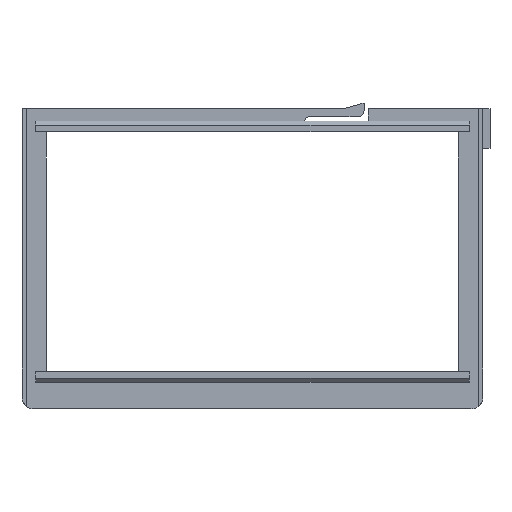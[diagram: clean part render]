
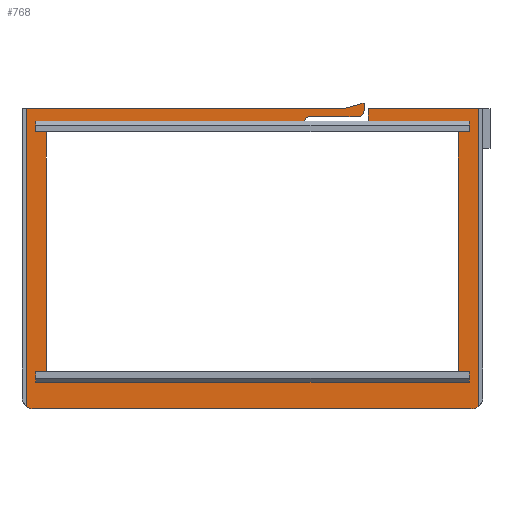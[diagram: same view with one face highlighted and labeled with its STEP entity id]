
A CAD part, top view. The second image highlights one B-rep face of the part: STEP entity #768.
In plain terms, the highlighted planar face has unit normal (0, 0, 1).
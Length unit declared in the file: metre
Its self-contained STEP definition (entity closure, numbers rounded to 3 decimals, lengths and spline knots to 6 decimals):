
#16=CIRCLE('',#823,0.003);
#17=CIRCLE('',#824,0.003);
#18=CIRCLE('',#825,0.0015);
#19=CIRCLE('',#826,0.0015);
#26=ORIENTED_EDGE('',*,*,#252,.F.);
#27=ORIENTED_EDGE('',*,*,#253,.F.);
#28=ORIENTED_EDGE('',*,*,#254,.T.);
#29=ORIENTED_EDGE('',*,*,#255,.T.);
#30=ORIENTED_EDGE('',*,*,#256,.F.);
#31=ORIENTED_EDGE('',*,*,#257,.F.);
#32=ORIENTED_EDGE('',*,*,#258,.T.);
#33=ORIENTED_EDGE('',*,*,#259,.T.);
#34=ORIENTED_EDGE('',*,*,#260,.F.);
#35=ORIENTED_EDGE('',*,*,#261,.F.);
#36=ORIENTED_EDGE('',*,*,#262,.T.);
#37=ORIENTED_EDGE('',*,*,#263,.T.);
#38=ORIENTED_EDGE('',*,*,#264,.T.);
#39=ORIENTED_EDGE('',*,*,#265,.T.);
#40=ORIENTED_EDGE('',*,*,#266,.F.);
#41=ORIENTED_EDGE('',*,*,#267,.T.);
#42=ORIENTED_EDGE('',*,*,#268,.F.);
#43=ORIENTED_EDGE('',*,*,#269,.T.);
#44=ORIENTED_EDGE('',*,*,#270,.T.);
#45=ORIENTED_EDGE('',*,*,#271,.T.);
#46=ORIENTED_EDGE('',*,*,#272,.T.);
#47=ORIENTED_EDGE('',*,*,#273,.T.);
#48=ORIENTED_EDGE('',*,*,#274,.T.);
#49=ORIENTED_EDGE('',*,*,#275,.T.);
#50=ORIENTED_EDGE('',*,*,#276,.T.);
#51=ORIENTED_EDGE('',*,*,#277,.T.);
#252=EDGE_CURVE('',#365,#366,#439,.T.);
#253=EDGE_CURVE('',#367,#365,#440,.T.);
#254=EDGE_CURVE('',#367,#368,#441,.T.);
#255=EDGE_CURVE('',#368,#369,#442,.T.);
#256=EDGE_CURVE('',#370,#369,#443,.T.);
#257=EDGE_CURVE('',#371,#370,#444,.T.);
#258=EDGE_CURVE('',#371,#372,#445,.T.);
#259=EDGE_CURVE('',#372,#373,#446,.T.);
#260=EDGE_CURVE('',#374,#373,#447,.T.);
#261=EDGE_CURVE('',#375,#374,#448,.T.);
#262=EDGE_CURVE('',#375,#376,#449,.T.);
#263=EDGE_CURVE('',#376,#366,#450,.T.);
#264=EDGE_CURVE('',#377,#378,#451,.T.);
#265=EDGE_CURVE('',#378,#379,#16,.F.);
#266=EDGE_CURVE('',#380,#379,#452,.T.);
#267=EDGE_CURVE('',#380,#381,#17,.F.);
#268=EDGE_CURVE('',#382,#381,#453,.T.);
#269=EDGE_CURVE('',#382,#383,#454,.T.);
#270=EDGE_CURVE('',#383,#384,#455,.T.);
#271=EDGE_CURVE('',#384,#385,#456,.T.);
#272=EDGE_CURVE('',#385,#386,#18,.T.);
#273=EDGE_CURVE('',#386,#387,#457,.T.);
#274=EDGE_CURVE('',#387,#388,#19,.F.);
#275=EDGE_CURVE('',#388,#389,#458,.T.);
#276=EDGE_CURVE('',#389,#390,#459,.T.);
#277=EDGE_CURVE('',#390,#377,#460,.T.);
#365=VERTEX_POINT('',#1083);
#366=VERTEX_POINT('',#1084);
#367=VERTEX_POINT('',#1086);
#368=VERTEX_POINT('',#1088);
#369=VERTEX_POINT('',#1090);
#370=VERTEX_POINT('',#1092);
#371=VERTEX_POINT('',#1094);
#372=VERTEX_POINT('',#1096);
#373=VERTEX_POINT('',#1098);
#374=VERTEX_POINT('',#1100);
#375=VERTEX_POINT('',#1102);
#376=VERTEX_POINT('',#1104);
#377=VERTEX_POINT('',#1107);
#378=VERTEX_POINT('',#1108);
#379=VERTEX_POINT('',#1110);
#380=VERTEX_POINT('',#1112);
#381=VERTEX_POINT('',#1114);
#382=VERTEX_POINT('',#1116);
#383=VERTEX_POINT('',#1118);
#384=VERTEX_POINT('',#1120);
#385=VERTEX_POINT('',#1122);
#386=VERTEX_POINT('',#1124);
#387=VERTEX_POINT('',#1126);
#388=VERTEX_POINT('',#1128);
#389=VERTEX_POINT('',#1130);
#390=VERTEX_POINT('',#1132);
#439=LINE('',#1082,#542);
#440=LINE('',#1085,#543);
#441=LINE('',#1087,#544);
#442=LINE('',#1089,#545);
#443=LINE('',#1091,#546);
#444=LINE('',#1093,#547);
#445=LINE('',#1095,#548);
#446=LINE('',#1097,#549);
#447=LINE('',#1099,#550);
#448=LINE('',#1101,#551);
#449=LINE('',#1103,#552);
#450=LINE('',#1105,#553);
#451=LINE('',#1106,#554);
#452=LINE('',#1111,#555);
#453=LINE('',#1115,#556);
#454=LINE('',#1117,#557);
#455=LINE('',#1119,#558);
#456=LINE('',#1121,#559);
#457=LINE('',#1125,#560);
#458=LINE('',#1129,#561);
#459=LINE('',#1131,#562);
#460=LINE('',#1133,#563);
#542=VECTOR('',#877,1.);
#543=VECTOR('',#878,1.);
#544=VECTOR('',#879,1.);
#545=VECTOR('',#880,1.);
#546=VECTOR('',#881,1.);
#547=VECTOR('',#882,1.);
#548=VECTOR('',#883,1.);
#549=VECTOR('',#884,1.);
#550=VECTOR('',#885,1.);
#551=VECTOR('',#886,1.);
#552=VECTOR('',#887,1.);
#553=VECTOR('',#888,1.);
#554=VECTOR('',#889,1.);
#555=VECTOR('',#892,1.);
#556=VECTOR('',#895,1.);
#557=VECTOR('',#896,1.);
#558=VECTOR('',#897,1.);
#559=VECTOR('',#898,1.);
#560=VECTOR('',#901,1.);
#561=VECTOR('',#904,1.);
#562=VECTOR('',#905,1.);
#563=VECTOR('',#906,1.);
#645=EDGE_LOOP('',(#26,#27,#28,#29,#30,#31,#32,#33,#34,#35,#36,#37));
#646=EDGE_LOOP('',(#38,#39,#40,#41,#42,#43,#44,#45,#46,#47,#48,#49,#50,#51));
#688=FACE_BOUND('',#645,.T.);
#689=FACE_BOUND('',#646,.T.);
#731=PLANE('',#822);
#768=ADVANCED_FACE('',(#688,#689),#731,.F.);
#822=AXIS2_PLACEMENT_3D('',#1081,#875,#876);
#823=AXIS2_PLACEMENT_3D('',#1109,#890,#891);
#824=AXIS2_PLACEMENT_3D('',#1113,#893,#894);
#825=AXIS2_PLACEMENT_3D('',#1123,#899,#900);
#826=AXIS2_PLACEMENT_3D('',#1127,#902,#903);
#875=DIRECTION('',(0.,0.,-1.));
#876=DIRECTION('',(1.,0.,0.));
#877=DIRECTION('',(-1.,0.,0.));
#878=DIRECTION('',(0.,-1.,0.));
#879=DIRECTION('',(-1.,0.,0.));
#880=DIRECTION('',(0.,1.,0.));
#881=DIRECTION('',(-1.,0.,0.));
#882=DIRECTION('',(0.,1.,0.));
#883=DIRECTION('',(-1.,0.,0.));
#884=DIRECTION('',(0.,-1.,0.));
#885=DIRECTION('',(-1.,0.,0.));
#886=DIRECTION('',(0.,1.,0.));
#887=DIRECTION('',(-1.,0.,0.));
#888=DIRECTION('',(0.,1.,0.));
#889=DIRECTION('',(0.,-1.,0.));
#890=DIRECTION('',(0.,0.,-1.));
#891=DIRECTION('',(-1.,0.,0.));
#892=DIRECTION('',(-1.,0.,0.));
#893=DIRECTION('',(0.,0.,-1.));
#894=DIRECTION('',(-1.,0.,0.));
#895=DIRECTION('',(0.,-1.,0.));
#896=DIRECTION('',(-1.,0.,0.));
#897=DIRECTION('',(0.,-1.,0.));
#898=DIRECTION('',(-1.,0.,0.));
#899=DIRECTION('',(0.,0.,-1.));
#900=DIRECTION('',(-1.,0.,0.));
#901=DIRECTION('',(1.,0.,0.));
#902=DIRECTION('',(0.,0.,-1.));
#903=DIRECTION('',(-1.,0.,0.));
#904=DIRECTION('',(0.,1.,0.));
#905=DIRECTION('',(-0.963,-0.27,0.));
#906=DIRECTION('',(-1.,0.,0.));
#1081=CARTESIAN_POINT('',(0.,-0.04964,0.001));
#1082=CARTESIAN_POINT('',(0.05461,-0.0781,0.001));
#1083=CARTESIAN_POINT('',(-0.05191,-0.0781,0.001));
#1084=CARTESIAN_POINT('',(-0.05461,-0.0781,0.001));
#1085=CARTESIAN_POINT('',(-0.05191,-0.04789,0.001));
#1086=CARTESIAN_POINT('',(-0.05191,-0.01768,0.001));
#1087=CARTESIAN_POINT('',(0.05461,-0.01768,0.001));
#1088=CARTESIAN_POINT('',(-0.05461,-0.01768,0.001));
#1089=CARTESIAN_POINT('',(-0.05461,-0.04789,0.001));
#1090=CARTESIAN_POINT('',(-0.05461,-0.01598,0.001));
#1091=CARTESIAN_POINT('',(0.05461,-0.01598,0.001));
#1092=CARTESIAN_POINT('',(0.05461,-0.01598,0.001));
#1093=CARTESIAN_POINT('',(0.05461,-0.04789,0.001));
#1094=CARTESIAN_POINT('',(0.05461,-0.01768,0.001));
#1095=CARTESIAN_POINT('',(0.05461,-0.01768,0.001));
#1096=CARTESIAN_POINT('',(0.05191,-0.01768,0.001));
#1097=CARTESIAN_POINT('',(0.05191,-0.04789,0.001));
#1098=CARTESIAN_POINT('',(0.05191,-0.0781,0.001));
#1099=CARTESIAN_POINT('',(0.05461,-0.0781,0.001));
#1100=CARTESIAN_POINT('',(0.05461,-0.0781,0.001));
#1101=CARTESIAN_POINT('',(0.05461,-0.04789,0.001));
#1102=CARTESIAN_POINT('',(0.05461,-0.0798,0.001));
#1103=CARTESIAN_POINT('',(0.05461,-0.0798,0.001));
#1104=CARTESIAN_POINT('',(-0.05461,-0.0798,0.001));
#1105=CARTESIAN_POINT('',(-0.05461,-0.04789,0.001));
#1106=CARTESIAN_POINT('',(-0.05685,-0.04564,0.001));
#1107=CARTESIAN_POINT('',(-0.05685,-0.0118,0.001));
#1108=CARTESIAN_POINT('',(-0.05685,-0.08688,0.001));
#1109=CARTESIAN_POINT('',(-0.05505,-0.08448,0.001));
#1110=CARTESIAN_POINT('',(-0.05505,-0.08748,0.001));
#1111=CARTESIAN_POINT('',(0.,-0.08748,0.001));
#1112=CARTESIAN_POINT('',(0.05505,-0.08748,0.001));
#1113=CARTESIAN_POINT('',(0.05505,-0.08448,0.001));
#1114=CARTESIAN_POINT('',(0.05685,-0.08688,0.001));
#1115=CARTESIAN_POINT('',(0.05685,-0.04564,0.001));
#1116=CARTESIAN_POINT('',(0.05685,-0.0118,0.001));
#1117=CARTESIAN_POINT('',(0.,-0.0118,0.001));
#1118=CARTESIAN_POINT('',(0.029125,-0.0118,0.001));
#1119=CARTESIAN_POINT('',(0.029125,-0.01355,0.001));
#1120=CARTESIAN_POINT('',(0.029125,-0.0153,0.001));
#1121=CARTESIAN_POINT('',(0.021125,-0.0153,0.001));
#1122=CARTESIAN_POINT('',(0.013125,-0.0153,0.001));
#1123=CARTESIAN_POINT('',(0.014625,-0.0153,0.001));
#1124=CARTESIAN_POINT('',(0.014625,-0.0138,0.001));
#1125=CARTESIAN_POINT('',(0.020625,-0.0138,0.001));
#1126=CARTESIAN_POINT('',(0.026625,-0.0138,0.001));
#1127=CARTESIAN_POINT('',(0.026625,-0.0123,0.001));
#1128=CARTESIAN_POINT('',(0.028125,-0.0123,0.001));
#1129=CARTESIAN_POINT('',(0.028125,-0.0111,0.001));
#1130=CARTESIAN_POINT('',(0.028125,-0.0104,0.001));
#1131=CARTESIAN_POINT('',(0.025625,-0.0111,0.001));
#1132=CARTESIAN_POINT('',(0.023125,-0.0118,0.001));
#1133=CARTESIAN_POINT('',(0.,-0.0118,0.001));
